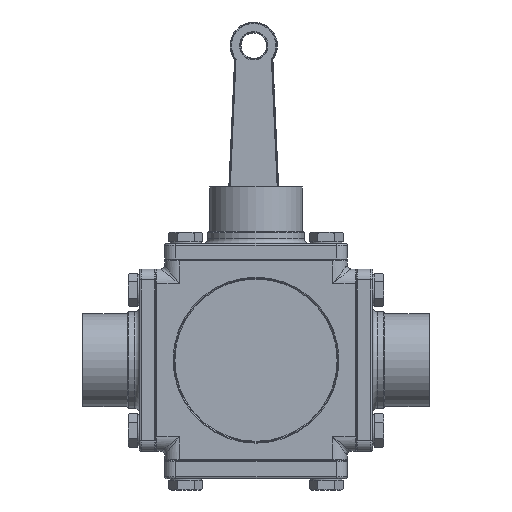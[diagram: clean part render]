
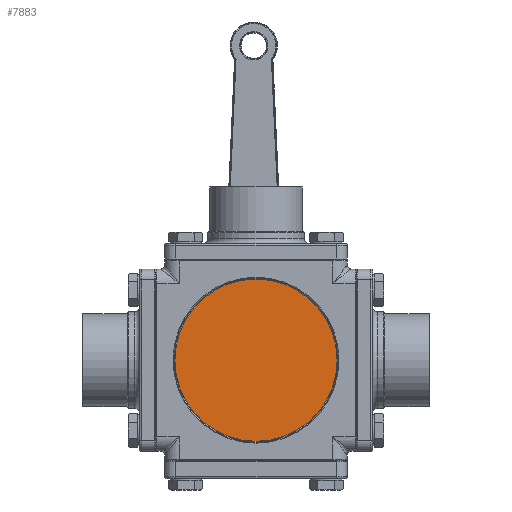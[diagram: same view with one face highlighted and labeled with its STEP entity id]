
A CAD part, front view. The second image highlights one B-rep face of the part: STEP entity #7883.
In plain terms, the highlighted planar face has unit normal (0, -1, 0).
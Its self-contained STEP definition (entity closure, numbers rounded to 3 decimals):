
#575 = VERTEX_POINT ( 'NONE', #6269 ) ;
#2349 = EDGE_CURVE ( 'NONE', #575, #7775, #11810, .T. ) ;
#5128 = ORIENTED_EDGE ( 'NONE', *, *, #2349, .T. ) ;
#6269 = CARTESIAN_POINT ( 'NONE',  ( 0., -48.5, -44.5 ) ) ;
#6475 = EDGE_LOOP ( 'NONE', ( #5128, #15014 ) ) ;
#7775 = VERTEX_POINT ( 'NONE', #29048 ) ;
#7883 = ADVANCED_FACE ( 'NONE', ( #9749 ), #24626, .T. ) ;
#7909 = EDGE_CURVE ( 'NONE', #7775, #575, #19816, .T. ) ;
#9272 = CARTESIAN_POINT ( 'NONE',  ( 0., -48.5, 0. ) ) ;
#9614 = DIRECTION ( 'NONE',  ( 0., 0., -1. ) ) ;
#9749 = FACE_OUTER_BOUND ( 'NONE', #6475, .T. ) ;
#11810 = CIRCLE ( 'NONE', #28612, 44.5 ) ;
#15014 = ORIENTED_EDGE ( 'NONE', *, *, #7909, .T. ) ;
#19165 = CARTESIAN_POINT ( 'NONE',  ( 0., -48.5, 0. ) ) ;
#19816 = CIRCLE ( 'NONE', #31643, 44.5 ) ;
#19857 = DIRECTION ( 'NONE',  ( 0., 0., -1. ) ) ;
#21846 = DIRECTION ( 'NONE',  ( 0., 0., -1. ) ) ;
#23046 = AXIS2_PLACEMENT_3D ( 'NONE', #9272, #29945, #9614 ) ;
#24287 = DIRECTION ( 'NONE',  ( 0., -1., 0. ) ) ;
#24626 = PLANE ( 'NONE',  #23046 ) ;
#28612 = AXIS2_PLACEMENT_3D ( 'NONE', #19165, #24287, #21846 ) ;
#29048 = CARTESIAN_POINT ( 'NONE',  ( 0., -48.5, 44.5 ) ) ;
#29945 = DIRECTION ( 'NONE',  ( 0., -1., 0. ) ) ;
#30049 = CARTESIAN_POINT ( 'NONE',  ( 0., -48.5, 0. ) ) ;
#31643 = AXIS2_PLACEMENT_3D ( 'NONE', #30049, #32585, #19857 ) ;
#32585 = DIRECTION ( 'NONE',  ( 0., -1., 0. ) ) ;
